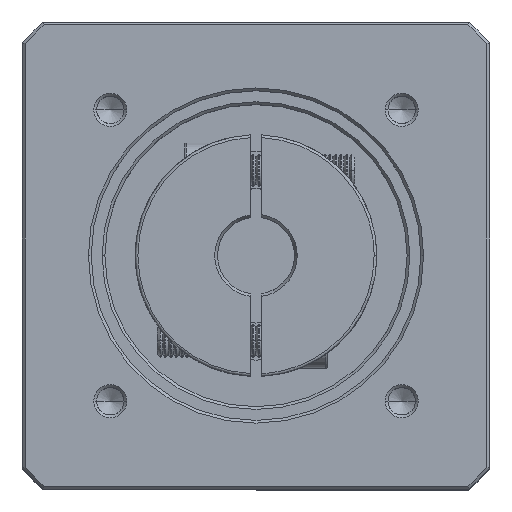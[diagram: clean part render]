
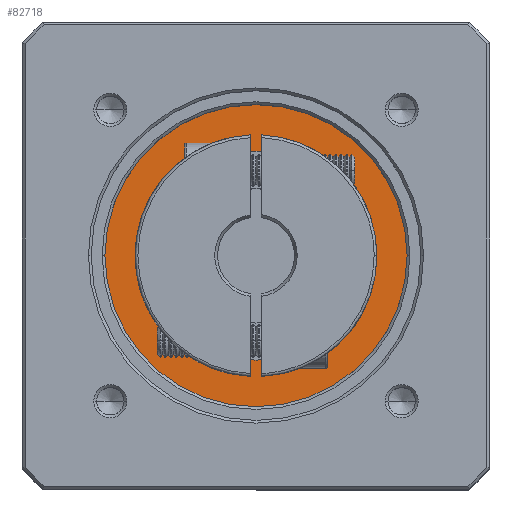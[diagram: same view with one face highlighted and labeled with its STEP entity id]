
A CAD part, top view. The second image highlights one B-rep face of the part: STEP entity #82718.
In plain terms, the highlighted planar face has unit normal (0, 0, 1).
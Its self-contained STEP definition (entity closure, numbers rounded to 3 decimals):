
#776 = CARTESIAN_POINT ( 'NONE',  ( -47.717, 38.255, -10.059 ) ) ;
#8204 = CARTESIAN_POINT ( 'NONE',  ( -47.717, 38.255, -10.059 ) ) ;
#8414 = CIRCLE ( 'NONE', #107413, 19. ) ;
#9162 = AXIS2_PLACEMENT_3D ( 'NONE', #8204, #18264, #18691 ) ;
#11420 = EDGE_CURVE ( 'NONE', #95217, #34034, #8414, .T. ) ;
#11861 = CARTESIAN_POINT ( 'NONE',  ( -47.717, 38.255, -10.059 ) ) ;
#16520 = DIRECTION ( 'NONE',  ( -1., 0., 0. ) ) ;
#18006 = EDGE_CURVE ( 'NONE', #95389, #111368, #111339, .T. ) ;
#18264 = DIRECTION ( 'NONE',  ( 0., 0., 1. ) ) ;
#18691 = DIRECTION ( 'NONE',  ( 1., 0., 0. ) ) ;
#24539 = CARTESIAN_POINT ( 'NONE',  ( -28.717, 38.255, -10.059 ) ) ;
#25029 = EDGE_LOOP ( 'NONE', ( #78861, #105870 ) ) ;
#30398 = AXIS2_PLACEMENT_3D ( 'NONE', #97816, #128424, #36509 ) ;
#33678 = ORIENTED_EDGE ( 'NONE', *, *, #67807, .T. ) ;
#34034 = VERTEX_POINT ( 'NONE', #24539 ) ;
#36509 = DIRECTION ( 'NONE',  ( -1., 0., 0. ) ) ;
#37389 = AXIS2_PLACEMENT_3D ( 'NONE', #776, #42094, #71038 ) ;
#39050 = FACE_BOUND ( 'NONE', #25029, .T. ) ;
#41182 = AXIS2_PLACEMENT_3D ( 'NONE', #11861, #102585, #82020 ) ;
#42094 = DIRECTION ( 'NONE',  ( 0., 0., 1. ) ) ;
#45005 = EDGE_CURVE ( 'NONE', #34034, #95217, #64300, .T. ) ;
#50610 = CARTESIAN_POINT ( 'NONE',  ( -20.217, 38.255, -10.059 ) ) ;
#64300 = CIRCLE ( 'NONE', #30398, 19. ) ;
#66580 = DIRECTION ( 'NONE',  ( 0., 0., -1. ) ) ;
#67807 = EDGE_CURVE ( 'NONE', #111368, #95389, #102531, .T. ) ;
#68334 = PLANE ( 'NONE',  #9162 ) ;
#71038 = DIRECTION ( 'NONE',  ( -1., 0., 0. ) ) ;
#72089 = CARTESIAN_POINT ( 'NONE',  ( -66.717, 38.255, -10.059 ) ) ;
#74909 = EDGE_LOOP ( 'NONE', ( #79630, #33678 ) ) ;
#78861 = ORIENTED_EDGE ( 'NONE', *, *, #11420, .T. ) ;
#79630 = ORIENTED_EDGE ( 'NONE', *, *, #18006, .T. ) ;
#82020 = DIRECTION ( 'NONE',  ( -1., 0., 0. ) ) ;
#82718 = ADVANCED_FACE ( 'NONE', ( #125064, #39050 ), #68334, .T. ) ;
#84298 = CARTESIAN_POINT ( 'NONE',  ( -75.217, 38.255, -10.059 ) ) ;
#95217 = VERTEX_POINT ( 'NONE', #72089 ) ;
#95389 = VERTEX_POINT ( 'NONE', #84298 ) ;
#97816 = CARTESIAN_POINT ( 'NONE',  ( -47.717, 38.255, -10.059 ) ) ;
#102531 = CIRCLE ( 'NONE', #37389, 27.5 ) ;
#102585 = DIRECTION ( 'NONE',  ( 0., 0., 1. ) ) ;
#105870 = ORIENTED_EDGE ( 'NONE', *, *, #45005, .T. ) ;
#107413 = AXIS2_PLACEMENT_3D ( 'NONE', #126486, #66580, #16520 ) ;
#111339 = CIRCLE ( 'NONE', #41182, 27.5 ) ;
#111368 = VERTEX_POINT ( 'NONE', #50610 ) ;
#125064 = FACE_OUTER_BOUND ( 'NONE', #74909, .T. ) ;
#126486 = CARTESIAN_POINT ( 'NONE',  ( -47.717, 38.255, -10.059 ) ) ;
#128424 = DIRECTION ( 'NONE',  ( 0., 0., -1. ) ) ;
